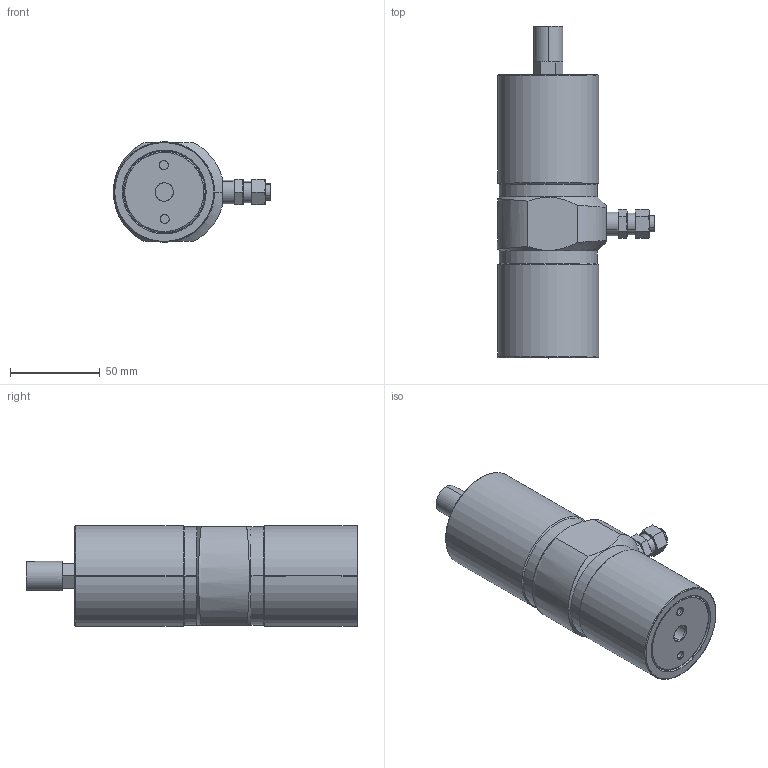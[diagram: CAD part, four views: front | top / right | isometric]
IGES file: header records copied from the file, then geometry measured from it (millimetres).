
Start section: SolidWorks IGES file using analytic representation for surfaces
Global section: file name: V:\WORK\08133\HP 寸法図\piston\EPV35L\test_C28000E-000_defeature.IGS,15; native system: HSolidWorks 2018; preprocessor: SolidWorks 2018; author: n-udagawa; date: 230118.091947; units: millimetre
Bounding box: 87.35 x 184.5 x 56 mm (x, y, z)
Surface area: 37486.9 mm2 (no closed solid volume)
Topology: 0 solids, 0 shells, 113 faces, 2195 edges, 2441 vertices
Faces by surface type: revolution 70, bspline 43
